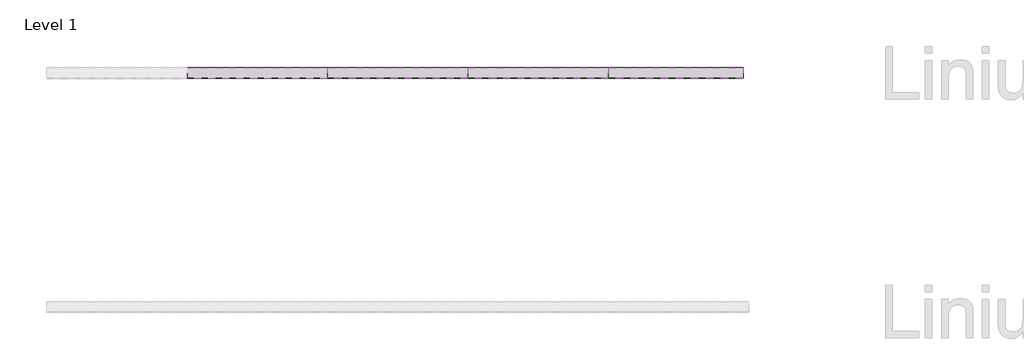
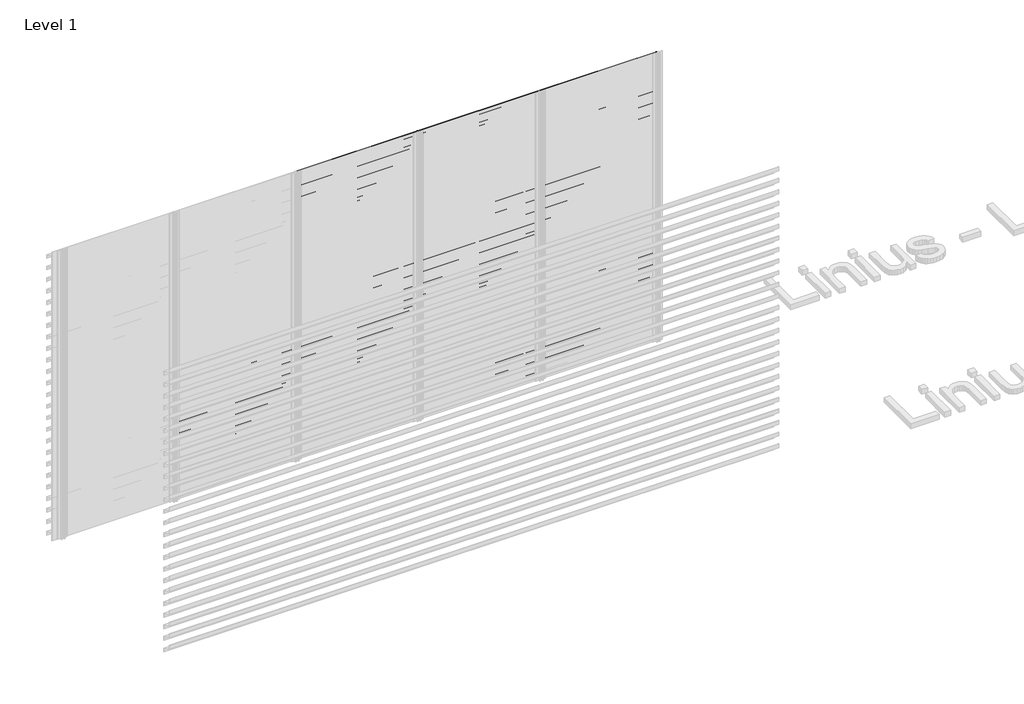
# One storey, part 6 of 46: 85 proxies.
"""IFC4 building model written with IfcOpenShell, lengths in millimetres."""

from ifc_helpers import new_model, si_unit, frame, origin, place, context, project, spatial, polyline, outline, extrude, element, save

model = new_model("IFC4")

# Units and contexts
model_context = context("Model", 3, world=origin())
ifc_project = project(units=[si_unit("LENGTHUNIT", "METRE", prefix="MILLI")], contexts=[model_context])

# Site, building, storey
site = spatial("IfcSite", under=ifc_project)
building = spatial("IfcBuilding", under=site)
storey = spatial("IfcBuildingStorey", under=building, Name="Level 1", Elevation=0.0)

# Proxies
placement = place(None, origin())
element("IfcBuildingElementProxy", 1, Name="Wall Sweeps", at=placement, inside=storey, context=model_context, shape_type="SweptSolid", body=[
    extrude(outline(polyline([(7077.0270068, 1240.0), (7077.0270068, 1200.0), (7075.0270068, 1201.349017), (7075.0270068, 1238.7258595), (6987.0270068, 1279.7609334), (6987.0270068, 1320.0), (6989.0270068, 1320.0), (6989.0270068, 1281.0350739), (7077.0270068, 1240.0)])), frame((1666.6208099, 0.0, 0.0), z_axis=(1.0, 0.0, 0.0), x_axis=(0.0, 1.0, 0.0)), (0.0, 0.0, 1.0), 1199.9999999),
])
element("IfcBuildingElementProxy", 2, Name="Wall Sweeps", at=placement, inside=storey, context=model_context, shape_type="SweptSolid", body=[
    extrude(outline(polyline([(7077.0270068, 1120.0), (7077.0270068, 1080.0), (7075.0270068, 1081.349017), (7075.0270068, 1118.7258595), (6987.0270068, 1159.7609334), (6987.0270068, 1200.0), (6989.0270068, 1200.0), (6989.0270068, 1161.0350739), (7077.0270068, 1120.0)])), frame((1666.6208099, 0.0, 0.0), z_axis=(1.0, 0.0, 0.0), x_axis=(0.0, 1.0, 0.0)), (0.0, 0.0, 1.0), 1199.9999999),
])
element("IfcBuildingElementProxy", 3, Name="Wall Sweeps", at=placement, inside=storey, context=model_context, shape_type="SweptSolid", body=[
    extrude(outline(polyline([(7077.0270068, 1000.0), (7077.0270068, 960.0), (7075.0270068, 961.349017), (7075.0270068, 998.7258595), (6987.0270068, 1039.7609334), (6987.0270068, 1080.0), (6989.0270068, 1080.0), (6989.0270068, 1041.0350739), (7077.0270068, 1000.0)])), frame((1666.6208099, 0.0, 0.0), z_axis=(1.0, 0.0, 0.0), x_axis=(0.0, 1.0, 0.0)), (0.0, 0.0, 1.0), 1199.9999999),
])
element("IfcBuildingElementProxy", 4, Name="Wall Sweeps", at=placement, inside=storey, context=model_context, shape_type="SweptSolid", body=[
    extrude(outline(polyline([(7077.0270068, 880.0), (7077.0270068, 840.0), (7075.0270068, 841.349017), (7075.0270068, 878.7258595), (6987.0270068, 919.7609334), (6987.0270068, 960.0), (6989.0270068, 960.0), (6989.0270068, 921.0350739), (7077.0270068, 880.0)])), frame((1666.6208099, 0.0, 0.0), z_axis=(1.0, 0.0, 0.0), x_axis=(0.0, 1.0, 0.0)), (0.0, 0.0, 1.0), 1199.9999999),
])
element("IfcBuildingElementProxy", 5, Name="Wall Sweeps", at=placement, inside=storey, context=model_context, shape_type="SweptSolid", body=[
    extrude(outline(polyline([(7077.0270068, 760.0), (7077.0270068, 720.0), (7075.0270068, 721.349017), (7075.0270068, 758.7258595), (6987.0270068, 799.7609334), (6987.0270068, 840.0), (6989.0270068, 840.0), (6989.0270068, 801.0350739), (7077.0270068, 760.0)])), frame((1666.6208099, 0.0, 0.0), z_axis=(1.0, 0.0, 0.0), x_axis=(0.0, 1.0, 0.0)), (0.0, 0.0, 1.0), 1199.9999999),
])
element("IfcBuildingElementProxy", 6, Name="Wall Sweeps", at=placement, inside=storey, context=model_context, shape_type="SweptSolid", body=[
    extrude(outline(polyline([(7077.0270068, 640.0), (7077.0270068, 600.0), (7075.0270068, 601.349017), (7075.0270068, 638.7258595), (6987.0270068, 679.7609334), (6987.0270068, 720.0), (6989.0270068, 720.0), (6989.0270068, 681.0350739), (7077.0270068, 640.0)])), frame((1666.6208099, 0.0, 0.0), z_axis=(1.0, 0.0, 0.0), x_axis=(0.0, 1.0, 0.0)), (0.0, 0.0, 1.0), 1199.9999999),
])
element("IfcBuildingElementProxy", 7, Name="Wall Sweeps", at=placement, inside=storey, context=model_context, shape_type="SweptSolid", body=[
    extrude(outline(polyline([(7077.0270068, 520.0), (7077.0270068, 480.0), (7075.0270068, 481.349017), (7075.0270068, 518.7258595), (6987.0270068, 559.7609334), (6987.0270068, 600.0), (6989.0270068, 600.0), (6989.0270068, 561.0350739), (7077.0270068, 520.0)])), frame((1666.6208099, 0.0, 0.0), z_axis=(1.0, 0.0, 0.0), x_axis=(0.0, 1.0, 0.0)), (0.0, 0.0, 1.0), 1199.9999999),
])
element("IfcBuildingElementProxy", 8, Name="Wall Sweeps", at=placement, inside=storey, context=model_context, shape_type="SweptSolid", body=[
    extrude(outline(polyline([(7077.0270068, 400.0), (7077.0270068, 360.0), (7075.0270068, 361.349017), (7075.0270068, 398.7258595), (6987.0270068, 439.7609334), (6987.0270068, 480.0), (6989.0270068, 480.0), (6989.0270068, 441.0350739), (7077.0270068, 400.0)])), frame((1666.6208099, 0.0, 0.0), z_axis=(1.0, 0.0, 0.0), x_axis=(0.0, 1.0, 0.0)), (0.0, 0.0, 1.0), 1199.9999999),
])
element("IfcBuildingElementProxy", 9, Name="Wall Sweeps", at=placement, inside=storey, context=model_context, shape_type="SweptSolid", body=[
    extrude(outline(polyline([(7077.0270068, 280.0), (7077.0270068, 240.0), (7075.0270068, 241.349017), (7075.0270068, 278.7258595), (6987.0270068, 319.7609334), (6987.0270068, 360.0), (6989.0270068, 360.0), (6989.0270068, 321.0350739), (7077.0270068, 280.0)])), frame((1666.6208099, 0.0, 0.0), z_axis=(1.0, 0.0, 0.0), x_axis=(0.0, 1.0, 0.0)), (0.0, 0.0, 1.0), 1199.9999999),
])
element("IfcBuildingElementProxy", 10, Name="Wall Sweeps", at=placement, inside=storey, context=model_context, shape_type="SweptSolid", body=[
    extrude(outline(polyline([(7077.0270068, 160.0), (7077.0270068, 120.0), (7075.0270068, 121.349017), (7075.0270068, 158.7258595), (6987.0270068, 199.7609334), (6987.0270068, 240.0), (6989.0270068, 240.0), (6989.0270068, 201.0350739), (7077.0270068, 160.0)])), frame((1666.6208099, 0.0, 0.0), z_axis=(1.0, 0.0, 0.0), x_axis=(0.0, 1.0, 0.0)), (0.0, 0.0, 1.0), 1199.9999999),
])
element("IfcBuildingElementProxy", 11, Name="Wall Sweeps", at=placement, inside=storey, context=model_context, shape_type="SweptSolid", body=[
    extrude(outline(polyline([(7077.0270068, 40.0), (7077.0270068, 0.0), (7075.0270068, 1.349017), (7075.0270068, 38.7258595), (6987.0270068, 79.7609334), (6987.0270068, 120.0), (6989.0270068, 120.0), (6989.0270068, 81.0350739), (7077.0270068, 40.0)])), frame((1666.6208099, 0.0, 0.0), z_axis=(1.0, 0.0, 0.0), x_axis=(0.0, 1.0, 0.0)), (0.0, 0.0, 1.0), 1199.9999999),
])
element("IfcBuildingElementProxy", 12, Name="Wall Sweeps", at=placement, inside=storey, context=model_context, shape_type="SweptSolid", body=[
    extrude(outline(polyline([(7077.0270068, 2920.0), (7077.0270068, 2880.0), (7075.0270068, 2881.349017), (7075.0270068, 2918.7258595), (6987.0270068, 2959.7609334), (6987.0270068, 3000.0), (6989.0270068, 3000.0), (6989.0270068, 2961.0350739), (7077.0270068, 2920.0)])), frame((5266.6208095, 0.0, 0.0), z_axis=(1.0, 0.0, 0.0), x_axis=(0.0, 1.0, 0.0)), (0.0, 0.0, 1.0), 1153.0000002),
])
element("IfcBuildingElementProxy", 13, Name="Wall Sweeps", at=placement, inside=storey, context=model_context, shape_type="SweptSolid", body=[
    extrude(outline(polyline([(7077.0270068, 2800.0), (7077.0270068, 2760.0), (7075.0270068, 2761.349017), (7075.0270068, 2798.7258595), (6987.0270068, 2839.7609334), (6987.0270068, 2880.0), (6989.0270068, 2880.0), (6989.0270068, 2841.0350739), (7077.0270068, 2800.0)])), frame((5266.6208095, 0.0, 0.0), z_axis=(1.0, 0.0, 0.0), x_axis=(0.0, 1.0, 0.0)), (0.0, 0.0, 1.0), 1153.0000002),
])
element("IfcBuildingElementProxy", 14, Name="Wall Sweeps", at=placement, inside=storey, context=model_context, shape_type="SweptSolid", body=[
    extrude(outline(polyline([(7077.0270068, 2680.0), (7077.0270068, 2640.0), (7075.0270068, 2641.349017), (7075.0270068, 2678.7258595), (6987.0270068, 2719.7609334), (6987.0270068, 2760.0), (6989.0270068, 2760.0), (6989.0270068, 2721.0350739), (7077.0270068, 2680.0)])), frame((5266.6208095, 0.0, 0.0), z_axis=(1.0, 0.0, 0.0), x_axis=(0.0, 1.0, 0.0)), (0.0, 0.0, 1.0), 1153.0000002),
])
element("IfcBuildingElementProxy", 15, Name="Wall Sweeps", at=placement, inside=storey, context=model_context, shape_type="SweptSolid", body=[
    extrude(outline(polyline([(7077.0270068, 2560.0), (7077.0270068, 2520.0), (7075.0270068, 2521.349017), (7075.0270068, 2558.7258595), (6987.0270068, 2599.7609334), (6987.0270068, 2640.0), (6989.0270068, 2640.0), (6989.0270068, 2601.0350739), (7077.0270068, 2560.0)])), frame((5266.6208095, 0.0, 0.0), z_axis=(1.0, 0.0, 0.0), x_axis=(0.0, 1.0, 0.0)), (0.0, 0.0, 1.0), 1153.0000002),
])
element("IfcBuildingElementProxy", 16, Name="Wall Sweeps", at=placement, inside=storey, context=model_context, shape_type="SweptSolid", body=[
    extrude(outline(polyline([(7077.0270068, 2440.0), (7077.0270068, 2400.0), (7075.0270068, 2401.349017), (7075.0270068, 2438.7258595), (6987.0270068, 2479.7609334), (6987.0270068, 2520.0), (6989.0270068, 2520.0), (6989.0270068, 2481.0350739), (7077.0270068, 2440.0)])), frame((5266.6208095, 0.0, 0.0), z_axis=(1.0, 0.0, 0.0), x_axis=(0.0, 1.0, 0.0)), (0.0, 0.0, 1.0), 1153.0000002),
])
element("IfcBuildingElementProxy", 17, Name="Wall Sweeps", at=placement, inside=storey, context=model_context, shape_type="SweptSolid", body=[
    extrude(outline(polyline([(7077.0270068, 2320.0), (7077.0270068, 2280.0), (7075.0270068, 2281.349017), (7075.0270068, 2318.7258595), (6987.0270068, 2359.7609334), (6987.0270068, 2400.0), (6989.0270068, 2400.0), (6989.0270068, 2361.0350739), (7077.0270068, 2320.0)])), frame((5266.6208095, 0.0, 0.0), z_axis=(1.0, 0.0, 0.0), x_axis=(0.0, 1.0, 0.0)), (0.0, 0.0, 1.0), 1153.0000002),
])
element("IfcBuildingElementProxy", 18, Name="Wall Sweeps", at=placement, inside=storey, context=model_context, shape_type="SweptSolid", body=[
    extrude(outline(polyline([(7077.0270068, 2200.0), (7077.0270068, 2160.0), (7075.0270068, 2161.349017), (7075.0270068, 2198.7258595), (6987.0270068, 2239.7609334), (6987.0270068, 2280.0), (6989.0270068, 2280.0), (6989.0270068, 2241.0350739), (7077.0270068, 2200.0)])), frame((5266.6208095, 0.0, 0.0), z_axis=(1.0, 0.0, 0.0), x_axis=(0.0, 1.0, 0.0)), (0.0, 0.0, 1.0), 1153.0000002),
])
element("IfcBuildingElementProxy", 19, Name="Wall Sweeps", at=placement, inside=storey, context=model_context, shape_type="SweptSolid", body=[
    extrude(outline(polyline([(7077.0270068, 2080.0), (7077.0270068, 2040.0), (7075.0270068, 2041.349017), (7075.0270068, 2078.7258595), (6987.0270068, 2119.7609334), (6987.0270068, 2160.0), (6989.0270068, 2160.0), (6989.0270068, 2121.0350739), (7077.0270068, 2080.0)])), frame((5266.6208095, 0.0, 0.0), z_axis=(1.0, 0.0, 0.0), x_axis=(0.0, 1.0, 0.0)), (0.0, 0.0, 1.0), 1153.0000002),
])
element("IfcBuildingElementProxy", 20, Name="Wall Sweeps", at=placement, inside=storey, context=model_context, shape_type="SweptSolid", body=[
    extrude(outline(polyline([(7077.0270068, 1960.0), (7077.0270068, 1920.0), (7075.0270068, 1921.349017), (7075.0270068, 1958.7258595), (6987.0270068, 1999.7609334), (6987.0270068, 2040.0), (6989.0270068, 2040.0), (6989.0270068, 2001.0350739), (7077.0270068, 1960.0)])), frame((5266.6208095, 0.0, 0.0), z_axis=(1.0, 0.0, 0.0), x_axis=(0.0, 1.0, 0.0)), (0.0, 0.0, 1.0), 1153.0000002),
])
element("IfcBuildingElementProxy", 21, Name="Wall Sweeps", at=placement, inside=storey, context=model_context, shape_type="SweptSolid", body=[
    extrude(outline(polyline([(7077.0270068, 1840.0), (7077.0270068, 1800.0), (7075.0270068, 1801.349017), (7075.0270068, 1838.7258595), (6987.0270068, 1879.7609334), (6987.0270068, 1920.0), (6989.0270068, 1920.0), (6989.0270068, 1881.0350739), (7077.0270068, 1840.0)])), frame((5266.6208095, 0.0, 0.0), z_axis=(1.0, 0.0, 0.0), x_axis=(0.0, 1.0, 0.0)), (0.0, 0.0, 1.0), 1153.0000002),
])
element("IfcBuildingElementProxy", 22, Name="Wall Sweeps", at=placement, inside=storey, context=model_context, shape_type="SweptSolid", body=[
    extrude(outline(polyline([(7077.0270068, 1720.0), (7077.0270068, 1680.0), (7075.0270068, 1681.349017), (7075.0270068, 1718.7258595), (6987.0270068, 1759.7609334), (6987.0270068, 1800.0), (6989.0270068, 1800.0), (6989.0270068, 1761.0350739), (7077.0270068, 1720.0)])), frame((5266.6208095, 0.0, 0.0), z_axis=(1.0, 0.0, 0.0), x_axis=(0.0, 1.0, 0.0)), (0.0, 0.0, 1.0), 1153.0000002),
])
element("IfcBuildingElementProxy", 23, Name="Wall Sweeps", at=placement, inside=storey, context=model_context, shape_type="SweptSolid", body=[
    extrude(outline(polyline([(7077.0270068, 1600.0), (7077.0270068, 1560.0), (7075.0270068, 1561.349017), (7075.0270068, 1598.7258595), (6987.0270068, 1639.7609334), (6987.0270068, 1680.0), (6989.0270068, 1680.0), (6989.0270068, 1641.0350739), (7077.0270068, 1600.0)])), frame((5266.6208095, 0.0, 0.0), z_axis=(1.0, 0.0, 0.0), x_axis=(0.0, 1.0, 0.0)), (0.0, 0.0, 1.0), 1153.0000002),
])
element("IfcBuildingElementProxy", 24, Name="Wall Sweeps", at=placement, inside=storey, context=model_context, shape_type="SweptSolid", body=[
    extrude(outline(polyline([(7077.0270068, 1480.0), (7077.0270068, 1440.0), (7075.0270068, 1441.349017), (7075.0270068, 1478.7258595), (6987.0270068, 1519.7609334), (6987.0270068, 1560.0), (6989.0270068, 1560.0), (6989.0270068, 1521.0350739), (7077.0270068, 1480.0)])), frame((5266.6208095, 0.0, 0.0), z_axis=(1.0, 0.0, 0.0), x_axis=(0.0, 1.0, 0.0)), (0.0, 0.0, 1.0), 1153.0000002),
])
element("IfcBuildingElementProxy", 25, Name="Wall Sweeps", at=placement, inside=storey, context=model_context, shape_type="SweptSolid", body=[
    extrude(outline(polyline([(7077.0270068, 1360.0), (7077.0270068, 1320.0), (7075.0270068, 1321.349017), (7075.0270068, 1358.7258595), (6987.0270068, 1399.7609334), (6987.0270068, 1440.0), (6989.0270068, 1440.0), (6989.0270068, 1401.0350739), (7077.0270068, 1360.0)])), frame((5266.6208095, 0.0, 0.0), z_axis=(1.0, 0.0, 0.0), x_axis=(0.0, 1.0, 0.0)), (0.0, 0.0, 1.0), 1153.0000002),
])
element("IfcBuildingElementProxy", 26, Name="Wall Sweeps", at=placement, inside=storey, context=model_context, shape_type="SweptSolid", body=[
    extrude(outline(polyline([(7077.0270068, 1240.0), (7077.0270068, 1200.0), (7075.0270068, 1201.349017), (7075.0270068, 1238.7258595), (6987.0270068, 1279.7609334), (6987.0270068, 1320.0), (6989.0270068, 1320.0), (6989.0270068, 1281.0350739), (7077.0270068, 1240.0)])), frame((5266.6208095, 0.0, 0.0), z_axis=(1.0, 0.0, 0.0), x_axis=(0.0, 1.0, 0.0)), (0.0, 0.0, 1.0), 1153.0000002),
])
element("IfcBuildingElementProxy", 27, Name="Wall Sweeps", at=placement, inside=storey, context=model_context, shape_type="SweptSolid", body=[
    extrude(outline(polyline([(7077.0270068, 1120.0), (7077.0270068, 1080.0), (7075.0270068, 1081.349017), (7075.0270068, 1118.7258595), (6987.0270068, 1159.7609334), (6987.0270068, 1200.0), (6989.0270068, 1200.0), (6989.0270068, 1161.0350739), (7077.0270068, 1120.0)])), frame((5266.6208095, 0.0, 0.0), z_axis=(1.0, 0.0, 0.0), x_axis=(0.0, 1.0, 0.0)), (0.0, 0.0, 1.0), 1153.0000002),
])
element("IfcBuildingElementProxy", 28, Name="Wall Sweeps", at=placement, inside=storey, context=model_context, shape_type="SweptSolid", body=[
    extrude(outline(polyline([(7077.0270068, 1000.0), (7077.0270068, 960.0), (7075.0270068, 961.349017), (7075.0270068, 998.7258595), (6987.0270068, 1039.7609334), (6987.0270068, 1080.0), (6989.0270068, 1080.0), (6989.0270068, 1041.0350739), (7077.0270068, 1000.0)])), frame((5266.6208095, 0.0, 0.0), z_axis=(1.0, 0.0, 0.0), x_axis=(0.0, 1.0, 0.0)), (0.0, 0.0, 1.0), 1153.0000002),
])
element("IfcBuildingElementProxy", 29, Name="Wall Sweeps", at=placement, inside=storey, context=model_context, shape_type="SweptSolid", body=[
    extrude(outline(polyline([(7077.0270068, 880.0), (7077.0270068, 840.0), (7075.0270068, 841.349017), (7075.0270068, 878.7258595), (6987.0270068, 919.7609334), (6987.0270068, 960.0), (6989.0270068, 960.0), (6989.0270068, 921.0350739), (7077.0270068, 880.0)])), frame((5266.6208095, 0.0, 0.0), z_axis=(1.0, 0.0, 0.0), x_axis=(0.0, 1.0, 0.0)), (0.0, 0.0, 1.0), 1153.0000002),
])
element("IfcBuildingElementProxy", 30, Name="Wall Sweeps", at=placement, inside=storey, context=model_context, shape_type="SweptSolid", body=[
    extrude(outline(polyline([(7077.0270068, 760.0), (7077.0270068, 720.0), (7075.0270068, 721.349017), (7075.0270068, 758.7258595), (6987.0270068, 799.7609334), (6987.0270068, 840.0), (6989.0270068, 840.0), (6989.0270068, 801.0350739), (7077.0270068, 760.0)])), frame((5266.6208095, 0.0, 0.0), z_axis=(1.0, 0.0, 0.0), x_axis=(0.0, 1.0, 0.0)), (0.0, 0.0, 1.0), 1153.0000002),
])
element("IfcBuildingElementProxy", 31, Name="Wall Sweeps", at=placement, inside=storey, context=model_context, shape_type="SweptSolid", body=[
    extrude(outline(polyline([(7077.0270068, 640.0), (7077.0270068, 600.0), (7075.0270068, 601.349017), (7075.0270068, 638.7258595), (6987.0270068, 679.7609334), (6987.0270068, 720.0), (6989.0270068, 720.0), (6989.0270068, 681.0350739), (7077.0270068, 640.0)])), frame((5266.6208095, 0.0, 0.0), z_axis=(1.0, 0.0, 0.0), x_axis=(0.0, 1.0, 0.0)), (0.0, 0.0, 1.0), 1153.0000002),
])
element("IfcBuildingElementProxy", 32, Name="Wall Sweeps", at=placement, inside=storey, context=model_context, shape_type="SweptSolid", body=[
    extrude(outline(polyline([(7077.0270068, 520.0), (7077.0270068, 480.0), (7075.0270068, 481.349017), (7075.0270068, 518.7258595), (6987.0270068, 559.7609334), (6987.0270068, 600.0), (6989.0270068, 600.0), (6989.0270068, 561.0350739), (7077.0270068, 520.0)])), frame((5266.6208095, 0.0, 0.0), z_axis=(1.0, 0.0, 0.0), x_axis=(0.0, 1.0, 0.0)), (0.0, 0.0, 1.0), 1153.0000002),
])
element("IfcBuildingElementProxy", 33, Name="Wall Sweeps", at=placement, inside=storey, context=model_context, shape_type="SweptSolid", body=[
    extrude(outline(polyline([(7077.0270068, 400.0), (7077.0270068, 360.0), (7075.0270068, 361.349017), (7075.0270068, 398.7258595), (6987.0270068, 439.7609334), (6987.0270068, 480.0), (6989.0270068, 480.0), (6989.0270068, 441.0350739), (7077.0270068, 400.0)])), frame((5266.6208095, 0.0, 0.0), z_axis=(1.0, 0.0, 0.0), x_axis=(0.0, 1.0, 0.0)), (0.0, 0.0, 1.0), 1153.0000002),
])
element("IfcBuildingElementProxy", 34, Name="Wall Sweeps", at=placement, inside=storey, context=model_context, shape_type="SweptSolid", body=[
    extrude(outline(polyline([(7077.0270068, 280.0), (7077.0270068, 240.0), (7075.0270068, 241.349017), (7075.0270068, 278.7258595), (6987.0270068, 319.7609334), (6987.0270068, 360.0), (6989.0270068, 360.0), (6989.0270068, 321.0350739), (7077.0270068, 280.0)])), frame((5266.6208095, 0.0, 0.0), z_axis=(1.0, 0.0, 0.0), x_axis=(0.0, 1.0, 0.0)), (0.0, 0.0, 1.0), 1153.0000002),
])
element("IfcBuildingElementProxy", 35, Name="Wall Sweeps", at=placement, inside=storey, context=model_context, shape_type="SweptSolid", body=[
    extrude(outline(polyline([(7077.0270068, 160.0), (7077.0270068, 120.0), (7075.0270068, 121.349017), (7075.0270068, 158.7258595), (6987.0270068, 199.7609334), (6987.0270068, 240.0), (6989.0270068, 240.0), (6989.0270068, 201.0350739), (7077.0270068, 160.0)])), frame((5266.6208095, 0.0, 0.0), z_axis=(1.0, 0.0, 0.0), x_axis=(0.0, 1.0, 0.0)), (0.0, 0.0, 1.0), 1153.0000002),
])
element("IfcBuildingElementProxy", 36, Name="Wall Sweeps", at=placement, inside=storey, context=model_context, shape_type="SweptSolid", body=[
    extrude(outline(polyline([(7077.0270068, 2920.0), (7077.0270068, 2880.0), (7075.0270068, 2881.349017), (7075.0270068, 2918.7258595), (6987.0270068, 2959.7609334), (6987.0270068, 3000.0), (6989.0270068, 3000.0), (6989.0270068, 2961.0350739), (7077.0270068, 2920.0)])), frame((2866.6208097, 0.0, 0.0), z_axis=(1.0, 0.0, 0.0), x_axis=(0.0, 1.0, 0.0)), (0.0, 0.0, 1.0), 1199.9999999),
])
element("IfcBuildingElementProxy", 37, Name="Wall Sweeps", at=placement, inside=storey, context=model_context, shape_type="SweptSolid", body=[
    extrude(outline(polyline([(7077.0270068, 2800.0), (7077.0270068, 2760.0), (7075.0270068, 2761.349017), (7075.0270068, 2798.7258595), (6987.0270068, 2839.7609334), (6987.0270068, 2880.0), (6989.0270068, 2880.0), (6989.0270068, 2841.0350739), (7077.0270068, 2800.0)])), frame((2866.6208097, 0.0, 0.0), z_axis=(1.0, 0.0, 0.0), x_axis=(0.0, 1.0, 0.0)), (0.0, 0.0, 1.0), 1199.9999999),
])
element("IfcBuildingElementProxy", 38, Name="Wall Sweeps", at=placement, inside=storey, context=model_context, shape_type="SweptSolid", body=[
    extrude(outline(polyline([(7077.0270068, 2680.0), (7077.0270068, 2640.0), (7075.0270068, 2641.349017), (7075.0270068, 2678.7258595), (6987.0270068, 2719.7609334), (6987.0270068, 2760.0), (6989.0270068, 2760.0), (6989.0270068, 2721.0350739), (7077.0270068, 2680.0)])), frame((2866.6208097, 0.0, 0.0), z_axis=(1.0, 0.0, 0.0), x_axis=(0.0, 1.0, 0.0)), (0.0, 0.0, 1.0), 1199.9999999),
])
element("IfcBuildingElementProxy", 39, Name="Wall Sweeps", at=placement, inside=storey, context=model_context, shape_type="SweptSolid", body=[
    extrude(outline(polyline([(7077.0270068, 2560.0), (7077.0270068, 2520.0), (7075.0270068, 2521.349017), (7075.0270068, 2558.7258595), (6987.0270068, 2599.7609334), (6987.0270068, 2640.0), (6989.0270068, 2640.0), (6989.0270068, 2601.0350739), (7077.0270068, 2560.0)])), frame((2866.6208097, 0.0, 0.0), z_axis=(1.0, 0.0, 0.0), x_axis=(0.0, 1.0, 0.0)), (0.0, 0.0, 1.0), 1199.9999999),
])
element("IfcBuildingElementProxy", 40, Name="Wall Sweeps", at=placement, inside=storey, context=model_context, shape_type="SweptSolid", body=[
    extrude(outline(polyline([(7077.0270068, 2440.0), (7077.0270068, 2400.0), (7075.0270068, 2401.349017), (7075.0270068, 2438.7258595), (6987.0270068, 2479.7609334), (6987.0270068, 2520.0), (6989.0270068, 2520.0), (6989.0270068, 2481.0350739), (7077.0270068, 2440.0)])), frame((2866.6208097, 0.0, 0.0), z_axis=(1.0, 0.0, 0.0), x_axis=(0.0, 1.0, 0.0)), (0.0, 0.0, 1.0), 1199.9999999),
])
element("IfcBuildingElementProxy", 41, Name="Wall Sweeps", at=placement, inside=storey, context=model_context, shape_type="SweptSolid", body=[
    extrude(outline(polyline([(7077.0270068, 2320.0), (7077.0270068, 2280.0), (7075.0270068, 2281.349017), (7075.0270068, 2318.7258595), (6987.0270068, 2359.7609334), (6987.0270068, 2400.0), (6989.0270068, 2400.0), (6989.0270068, 2361.0350739), (7077.0270068, 2320.0)])), frame((2866.6208097, 0.0, 0.0), z_axis=(1.0, 0.0, 0.0), x_axis=(0.0, 1.0, 0.0)), (0.0, 0.0, 1.0), 1199.9999999),
])
element("IfcBuildingElementProxy", 42, Name="Wall Sweeps", at=placement, inside=storey, context=model_context, shape_type="SweptSolid", body=[
    extrude(outline(polyline([(7077.0270068, 2200.0), (7077.0270068, 2160.0), (7075.0270068, 2161.349017), (7075.0270068, 2198.7258595), (6987.0270068, 2239.7609334), (6987.0270068, 2280.0), (6989.0270068, 2280.0), (6989.0270068, 2241.0350739), (7077.0270068, 2200.0)])), frame((2866.6208097, 0.0, 0.0), z_axis=(1.0, 0.0, 0.0), x_axis=(0.0, 1.0, 0.0)), (0.0, 0.0, 1.0), 1199.9999999),
])
element("IfcBuildingElementProxy", 43, Name="Wall Sweeps", at=placement, inside=storey, context=model_context, shape_type="SweptSolid", body=[
    extrude(outline(polyline([(7077.0270068, 2080.0), (7077.0270068, 2040.0), (7075.0270068, 2041.349017), (7075.0270068, 2078.7258595), (6987.0270068, 2119.7609334), (6987.0270068, 2160.0), (6989.0270068, 2160.0), (6989.0270068, 2121.0350739), (7077.0270068, 2080.0)])), frame((2866.6208097, 0.0, 0.0), z_axis=(1.0, 0.0, 0.0), x_axis=(0.0, 1.0, 0.0)), (0.0, 0.0, 1.0), 1199.9999999),
])
element("IfcBuildingElementProxy", 44, Name="Wall Sweeps", at=placement, inside=storey, context=model_context, shape_type="SweptSolid", body=[
    extrude(outline(polyline([(7077.0270068, 1960.0), (7077.0270068, 1920.0), (7075.0270068, 1921.349017), (7075.0270068, 1958.7258595), (6987.0270068, 1999.7609334), (6987.0270068, 2040.0), (6989.0270068, 2040.0), (6989.0270068, 2001.0350739), (7077.0270068, 1960.0)])), frame((2866.6208097, 0.0, 0.0), z_axis=(1.0, 0.0, 0.0), x_axis=(0.0, 1.0, 0.0)), (0.0, 0.0, 1.0), 1199.9999999),
])
element("IfcBuildingElementProxy", 45, Name="Wall Sweeps", at=placement, inside=storey, context=model_context, shape_type="SweptSolid", body=[
    extrude(outline(polyline([(7077.0270068, 1840.0), (7077.0270068, 1800.0), (7075.0270068, 1801.349017), (7075.0270068, 1838.7258595), (6987.0270068, 1879.7609334), (6987.0270068, 1920.0), (6989.0270068, 1920.0), (6989.0270068, 1881.0350739), (7077.0270068, 1840.0)])), frame((2866.6208097, 0.0, 0.0), z_axis=(1.0, 0.0, 0.0), x_axis=(0.0, 1.0, 0.0)), (0.0, 0.0, 1.0), 1199.9999999),
])
element("IfcBuildingElementProxy", 46, Name="Wall Sweeps", at=placement, inside=storey, context=model_context, shape_type="SweptSolid", body=[
    extrude(outline(polyline([(7077.0270068, 1720.0), (7077.0270068, 1680.0), (7075.0270068, 1681.349017), (7075.0270068, 1718.7258595), (6987.0270068, 1759.7609334), (6987.0270068, 1800.0), (6989.0270068, 1800.0), (6989.0270068, 1761.0350739), (7077.0270068, 1720.0)])), frame((2866.6208097, 0.0, 0.0), z_axis=(1.0, 0.0, 0.0), x_axis=(0.0, 1.0, 0.0)), (0.0, 0.0, 1.0), 1199.9999999),
])
element("IfcBuildingElementProxy", 47, Name="Wall Sweeps", at=placement, inside=storey, context=model_context, shape_type="SweptSolid", body=[
    extrude(outline(polyline([(7077.0270068, 1600.0), (7077.0270068, 1560.0), (7075.0270068, 1561.349017), (7075.0270068, 1598.7258595), (6987.0270068, 1639.7609334), (6987.0270068, 1680.0), (6989.0270068, 1680.0), (6989.0270068, 1641.0350739), (7077.0270068, 1600.0)])), frame((2866.6208097, 0.0, 0.0), z_axis=(1.0, 0.0, 0.0), x_axis=(0.0, 1.0, 0.0)), (0.0, 0.0, 1.0), 1199.9999999),
])
element("IfcBuildingElementProxy", 48, Name="Wall Sweeps", at=placement, inside=storey, context=model_context, shape_type="SweptSolid", body=[
    extrude(outline(polyline([(7077.0270068, 1480.0), (7077.0270068, 1440.0), (7075.0270068, 1441.349017), (7075.0270068, 1478.7258595), (6987.0270068, 1519.7609334), (6987.0270068, 1560.0), (6989.0270068, 1560.0), (6989.0270068, 1521.0350739), (7077.0270068, 1480.0)])), frame((2866.6208097, 0.0, 0.0), z_axis=(1.0, 0.0, 0.0), x_axis=(0.0, 1.0, 0.0)), (0.0, 0.0, 1.0), 1199.9999999),
])
element("IfcBuildingElementProxy", 49, Name="Wall Sweeps", at=placement, inside=storey, context=model_context, shape_type="SweptSolid", body=[
    extrude(outline(polyline([(7077.0270068, 1360.0), (7077.0270068, 1320.0), (7075.0270068, 1321.349017), (7075.0270068, 1358.7258595), (6987.0270068, 1399.7609334), (6987.0270068, 1440.0), (6989.0270068, 1440.0), (6989.0270068, 1401.0350739), (7077.0270068, 1360.0)])), frame((2866.6208097, 0.0, 0.0), z_axis=(1.0, 0.0, 0.0), x_axis=(0.0, 1.0, 0.0)), (0.0, 0.0, 1.0), 1199.9999999),
])
element("IfcBuildingElementProxy", 50, Name="Wall Sweeps", at=placement, inside=storey, context=model_context, shape_type="SweptSolid", body=[
    extrude(outline(polyline([(7077.0270068, 1240.0), (7077.0270068, 1200.0), (7075.0270068, 1201.349017), (7075.0270068, 1238.7258595), (6987.0270068, 1279.7609334), (6987.0270068, 1320.0), (6989.0270068, 1320.0), (6989.0270068, 1281.0350739), (7077.0270068, 1240.0)])), frame((2866.6208097, 0.0, 0.0), z_axis=(1.0, 0.0, 0.0), x_axis=(0.0, 1.0, 0.0)), (0.0, 0.0, 1.0), 1199.9999999),
])
element("IfcBuildingElementProxy", 51, Name="Wall Sweeps", at=placement, inside=storey, context=model_context, shape_type="SweptSolid", body=[
    extrude(outline(polyline([(7077.0270068, 1120.0), (7077.0270068, 1080.0), (7075.0270068, 1081.349017), (7075.0270068, 1118.7258595), (6987.0270068, 1159.7609334), (6987.0270068, 1200.0), (6989.0270068, 1200.0), (6989.0270068, 1161.0350739), (7077.0270068, 1120.0)])), frame((2866.6208097, 0.0, 0.0), z_axis=(1.0, 0.0, 0.0), x_axis=(0.0, 1.0, 0.0)), (0.0, 0.0, 1.0), 1199.9999999),
])
element("IfcBuildingElementProxy", 52, Name="Wall Sweeps", at=placement, inside=storey, context=model_context, shape_type="SweptSolid", body=[
    extrude(outline(polyline([(7077.0270068, 1000.0), (7077.0270068, 960.0), (7075.0270068, 961.349017), (7075.0270068, 998.7258595), (6987.0270068, 1039.7609334), (6987.0270068, 1080.0), (6989.0270068, 1080.0), (6989.0270068, 1041.0350739), (7077.0270068, 1000.0)])), frame((2866.6208097, 0.0, 0.0), z_axis=(1.0, 0.0, 0.0), x_axis=(0.0, 1.0, 0.0)), (0.0, 0.0, 1.0), 1199.9999999),
])
element("IfcBuildingElementProxy", 53, Name="Wall Sweeps", at=placement, inside=storey, context=model_context, shape_type="SweptSolid", body=[
    extrude(outline(polyline([(7077.0270068, 880.0), (7077.0270068, 840.0), (7075.0270068, 841.349017), (7075.0270068, 878.7258595), (6987.0270068, 919.7609334), (6987.0270068, 960.0), (6989.0270068, 960.0), (6989.0270068, 921.0350739), (7077.0270068, 880.0)])), frame((2866.6208097, 0.0, 0.0), z_axis=(1.0, 0.0, 0.0), x_axis=(0.0, 1.0, 0.0)), (0.0, 0.0, 1.0), 1199.9999999),
])
element("IfcBuildingElementProxy", 54, Name="Wall Sweeps", at=placement, inside=storey, context=model_context, shape_type="SweptSolid", body=[
    extrude(outline(polyline([(7077.0270068, 760.0), (7077.0270068, 720.0), (7075.0270068, 721.349017), (7075.0270068, 758.7258595), (6987.0270068, 799.7609334), (6987.0270068, 840.0), (6989.0270068, 840.0), (6989.0270068, 801.0350739), (7077.0270068, 760.0)])), frame((2866.6208097, 0.0, 0.0), z_axis=(1.0, 0.0, 0.0), x_axis=(0.0, 1.0, 0.0)), (0.0, 0.0, 1.0), 1199.9999999),
])
element("IfcBuildingElementProxy", 55, Name="Wall Sweeps", at=placement, inside=storey, context=model_context, shape_type="SweptSolid", body=[
    extrude(outline(polyline([(7077.0270068, 640.0), (7077.0270068, 600.0), (7075.0270068, 601.349017), (7075.0270068, 638.7258595), (6987.0270068, 679.7609334), (6987.0270068, 720.0), (6989.0270068, 720.0), (6989.0270068, 681.0350739), (7077.0270068, 640.0)])), frame((2866.6208097, 0.0, 0.0), z_axis=(1.0, 0.0, 0.0), x_axis=(0.0, 1.0, 0.0)), (0.0, 0.0, 1.0), 1199.9999999),
])
element("IfcBuildingElementProxy", 56, Name="Wall Sweeps", at=placement, inside=storey, context=model_context, shape_type="SweptSolid", body=[
    extrude(outline(polyline([(7077.0270068, 520.0), (7077.0270068, 480.0), (7075.0270068, 481.349017), (7075.0270068, 518.7258595), (6987.0270068, 559.7609334), (6987.0270068, 600.0), (6989.0270068, 600.0), (6989.0270068, 561.0350739), (7077.0270068, 520.0)])), frame((2866.6208097, 0.0, 0.0), z_axis=(1.0, 0.0, 0.0), x_axis=(0.0, 1.0, 0.0)), (0.0, 0.0, 1.0), 1199.9999999),
])
element("IfcBuildingElementProxy", 57, Name="Wall Sweeps", at=placement, inside=storey, context=model_context, shape_type="SweptSolid", body=[
    extrude(outline(polyline([(7077.0270068, 400.0), (7077.0270068, 360.0), (7075.0270068, 361.349017), (7075.0270068, 398.7258595), (6987.0270068, 439.7609334), (6987.0270068, 480.0), (6989.0270068, 480.0), (6989.0270068, 441.0350739), (7077.0270068, 400.0)])), frame((2866.6208097, 0.0, 0.0), z_axis=(1.0, 0.0, 0.0), x_axis=(0.0, 1.0, 0.0)), (0.0, 0.0, 1.0), 1199.9999999),
])
element("IfcBuildingElementProxy", 58, Name="Wall Sweeps", at=placement, inside=storey, context=model_context, shape_type="SweptSolid", body=[
    extrude(outline(polyline([(7077.0270068, 280.0), (7077.0270068, 240.0), (7075.0270068, 241.349017), (7075.0270068, 278.7258595), (6987.0270068, 319.7609334), (6987.0270068, 360.0), (6989.0270068, 360.0), (6989.0270068, 321.0350739), (7077.0270068, 280.0)])), frame((2866.6208097, 0.0, 0.0), z_axis=(1.0, 0.0, 0.0), x_axis=(0.0, 1.0, 0.0)), (0.0, 0.0, 1.0), 1199.9999999),
])
element("IfcBuildingElementProxy", 59, Name="Wall Sweeps", at=placement, inside=storey, context=model_context, shape_type="SweptSolid", body=[
    extrude(outline(polyline([(7077.0270068, 160.0), (7077.0270068, 120.0), (7075.0270068, 121.349017), (7075.0270068, 158.7258595), (6987.0270068, 199.7609334), (6987.0270068, 240.0), (6989.0270068, 240.0), (6989.0270068, 201.0350739), (7077.0270068, 160.0)])), frame((2866.6208097, 0.0, 0.0), z_axis=(1.0, 0.0, 0.0), x_axis=(0.0, 1.0, 0.0)), (0.0, 0.0, 1.0), 1199.9999999),
])
element("IfcBuildingElementProxy", 60, Name="Wall Sweeps", at=placement, inside=storey, context=model_context, shape_type="SweptSolid", body=[
    extrude(outline(polyline([(7077.0270068, 40.0), (7077.0270068, 0.0), (7075.0270068, 1.349017), (7075.0270068, 38.7258595), (6987.0270068, 79.7609334), (6987.0270068, 120.0), (6989.0270068, 120.0), (6989.0270068, 81.0350739), (7077.0270068, 40.0)])), frame((2866.6208097, 0.0, 0.0), z_axis=(1.0, 0.0, 0.0), x_axis=(0.0, 1.0, 0.0)), (0.0, 0.0, 1.0), 1199.9999999),
])
element("IfcBuildingElementProxy", 61, Name="Wall Sweeps", at=placement, inside=storey, context=model_context, shape_type="SweptSolid", body=[
    extrude(outline(polyline([(7077.0270068, 2920.0), (7077.0270068, 2880.0), (7075.0270068, 2881.349017), (7075.0270068, 2918.7258595), (6987.0270068, 2959.7609334), (6987.0270068, 3000.0), (6989.0270068, 3000.0), (6989.0270068, 2961.0350739), (7077.0270068, 2920.0)])), frame((4066.6208096, 0.0, 0.0), z_axis=(1.0, 0.0, 0.0), x_axis=(0.0, 1.0, 0.0)), (0.0, 0.0, 1.0), 1199.9999999),
])
element("IfcBuildingElementProxy", 62, Name="Wall Sweeps", at=placement, inside=storey, context=model_context, shape_type="SweptSolid", body=[
    extrude(outline(polyline([(7077.0270068, 2800.0), (7077.0270068, 2760.0), (7075.0270068, 2761.349017), (7075.0270068, 2798.7258595), (6987.0270068, 2839.7609334), (6987.0270068, 2880.0), (6989.0270068, 2880.0), (6989.0270068, 2841.0350739), (7077.0270068, 2800.0)])), frame((4066.6208096, 0.0, 0.0), z_axis=(1.0, 0.0, 0.0), x_axis=(0.0, 1.0, 0.0)), (0.0, 0.0, 1.0), 1199.9999999),
])
element("IfcBuildingElementProxy", 63, Name="Wall Sweeps", at=placement, inside=storey, context=model_context, shape_type="SweptSolid", body=[
    extrude(outline(polyline([(7077.0270068, 2680.0), (7077.0270068, 2640.0), (7075.0270068, 2641.349017), (7075.0270068, 2678.7258595), (6987.0270068, 2719.7609334), (6987.0270068, 2760.0), (6989.0270068, 2760.0), (6989.0270068, 2721.0350739), (7077.0270068, 2680.0)])), frame((4066.6208096, 0.0, 0.0), z_axis=(1.0, 0.0, 0.0), x_axis=(0.0, 1.0, 0.0)), (0.0, 0.0, 1.0), 1199.9999999),
])
element("IfcBuildingElementProxy", 64, Name="Wall Sweeps", at=placement, inside=storey, context=model_context, shape_type="SweptSolid", body=[
    extrude(outline(polyline([(7077.0270068, 2560.0), (7077.0270068, 2520.0), (7075.0270068, 2521.349017), (7075.0270068, 2558.7258595), (6987.0270068, 2599.7609334), (6987.0270068, 2640.0), (6989.0270068, 2640.0), (6989.0270068, 2601.0350739), (7077.0270068, 2560.0)])), frame((4066.6208096, 0.0, 0.0), z_axis=(1.0, 0.0, 0.0), x_axis=(0.0, 1.0, 0.0)), (0.0, 0.0, 1.0), 1199.9999999),
])
element("IfcBuildingElementProxy", 65, Name="Wall Sweeps", at=placement, inside=storey, context=model_context, shape_type="SweptSolid", body=[
    extrude(outline(polyline([(7077.0270068, 2440.0), (7077.0270068, 2400.0), (7075.0270068, 2401.349017), (7075.0270068, 2438.7258595), (6987.0270068, 2479.7609334), (6987.0270068, 2520.0), (6989.0270068, 2520.0), (6989.0270068, 2481.0350739), (7077.0270068, 2440.0)])), frame((4066.6208096, 0.0, 0.0), z_axis=(1.0, 0.0, 0.0), x_axis=(0.0, 1.0, 0.0)), (0.0, 0.0, 1.0), 1199.9999999),
])
element("IfcBuildingElementProxy", 66, Name="Wall Sweeps", at=placement, inside=storey, context=model_context, shape_type="SweptSolid", body=[
    extrude(outline(polyline([(7077.0270068, 2320.0), (7077.0270068, 2280.0), (7075.0270068, 2281.349017), (7075.0270068, 2318.7258595), (6987.0270068, 2359.7609334), (6987.0270068, 2400.0), (6989.0270068, 2400.0), (6989.0270068, 2361.0350739), (7077.0270068, 2320.0)])), frame((4066.6208096, 0.0, 0.0), z_axis=(1.0, 0.0, 0.0), x_axis=(0.0, 1.0, 0.0)), (0.0, 0.0, 1.0), 1199.9999999),
])
element("IfcBuildingElementProxy", 67, Name="Wall Sweeps", at=placement, inside=storey, context=model_context, shape_type="SweptSolid", body=[
    extrude(outline(polyline([(7077.0270068, 2200.0), (7077.0270068, 2160.0), (7075.0270068, 2161.349017), (7075.0270068, 2198.7258595), (6987.0270068, 2239.7609334), (6987.0270068, 2280.0), (6989.0270068, 2280.0), (6989.0270068, 2241.0350739), (7077.0270068, 2200.0)])), frame((4066.6208096, 0.0, 0.0), z_axis=(1.0, 0.0, 0.0), x_axis=(0.0, 1.0, 0.0)), (0.0, 0.0, 1.0), 1199.9999999),
])
element("IfcBuildingElementProxy", 68, Name="Wall Sweeps", at=placement, inside=storey, context=model_context, shape_type="SweptSolid", body=[
    extrude(outline(polyline([(7077.0270068, 2080.0), (7077.0270068, 2040.0), (7075.0270068, 2041.349017), (7075.0270068, 2078.7258595), (6987.0270068, 2119.7609334), (6987.0270068, 2160.0), (6989.0270068, 2160.0), (6989.0270068, 2121.0350739), (7077.0270068, 2080.0)])), frame((4066.6208096, 0.0, 0.0), z_axis=(1.0, 0.0, 0.0), x_axis=(0.0, 1.0, 0.0)), (0.0, 0.0, 1.0), 1199.9999999),
])
element("IfcBuildingElementProxy", 69, Name="Wall Sweeps", at=placement, inside=storey, context=model_context, shape_type="SweptSolid", body=[
    extrude(outline(polyline([(7077.0270068, 1960.0), (7077.0270068, 1920.0), (7075.0270068, 1921.349017), (7075.0270068, 1958.7258595), (6987.0270068, 1999.7609334), (6987.0270068, 2040.0), (6989.0270068, 2040.0), (6989.0270068, 2001.0350739), (7077.0270068, 1960.0)])), frame((4066.6208096, 0.0, 0.0), z_axis=(1.0, 0.0, 0.0), x_axis=(0.0, 1.0, 0.0)), (0.0, 0.0, 1.0), 1199.9999999),
])
element("IfcBuildingElementProxy", 70, Name="Wall Sweeps", at=placement, inside=storey, context=model_context, shape_type="SweptSolid", body=[
    extrude(outline(polyline([(7077.0270068, 1840.0), (7077.0270068, 1800.0), (7075.0270068, 1801.349017), (7075.0270068, 1838.7258595), (6987.0270068, 1879.7609334), (6987.0270068, 1920.0), (6989.0270068, 1920.0), (6989.0270068, 1881.0350739), (7077.0270068, 1840.0)])), frame((4066.6208096, 0.0, 0.0), z_axis=(1.0, 0.0, 0.0), x_axis=(0.0, 1.0, 0.0)), (0.0, 0.0, 1.0), 1199.9999999),
])
element("IfcBuildingElementProxy", 71, Name="Wall Sweeps", at=placement, inside=storey, context=model_context, shape_type="SweptSolid", body=[
    extrude(outline(polyline([(7077.0270068, 1720.0), (7077.0270068, 1680.0), (7075.0270068, 1681.349017), (7075.0270068, 1718.7258595), (6987.0270068, 1759.7609334), (6987.0270068, 1800.0), (6989.0270068, 1800.0), (6989.0270068, 1761.0350739), (7077.0270068, 1720.0)])), frame((4066.6208096, 0.0, 0.0), z_axis=(1.0, 0.0, 0.0), x_axis=(0.0, 1.0, 0.0)), (0.0, 0.0, 1.0), 1199.9999999),
])
element("IfcBuildingElementProxy", 72, Name="Wall Sweeps", at=placement, inside=storey, context=model_context, shape_type="SweptSolid", body=[
    extrude(outline(polyline([(7077.0270068, 1600.0), (7077.0270068, 1560.0), (7075.0270068, 1561.349017), (7075.0270068, 1598.7258595), (6987.0270068, 1639.7609334), (6987.0270068, 1680.0), (6989.0270068, 1680.0), (6989.0270068, 1641.0350739), (7077.0270068, 1600.0)])), frame((4066.6208096, 0.0, 0.0), z_axis=(1.0, 0.0, 0.0), x_axis=(0.0, 1.0, 0.0)), (0.0, 0.0, 1.0), 1199.9999999),
])
element("IfcBuildingElementProxy", 73, Name="Wall Sweeps", at=placement, inside=storey, context=model_context, shape_type="SweptSolid", body=[
    extrude(outline(polyline([(7077.0270068, 1480.0), (7077.0270068, 1440.0), (7075.0270068, 1441.349017), (7075.0270068, 1478.7258595), (6987.0270068, 1519.7609334), (6987.0270068, 1560.0), (6989.0270068, 1560.0), (6989.0270068, 1521.0350739), (7077.0270068, 1480.0)])), frame((4066.6208096, 0.0, 0.0), z_axis=(1.0, 0.0, 0.0), x_axis=(0.0, 1.0, 0.0)), (0.0, 0.0, 1.0), 1199.9999999),
])
element("IfcBuildingElementProxy", 74, Name="Wall Sweeps", at=placement, inside=storey, context=model_context, shape_type="SweptSolid", body=[
    extrude(outline(polyline([(7077.0270068, 1360.0), (7077.0270068, 1320.0), (7075.0270068, 1321.349017), (7075.0270068, 1358.7258595), (6987.0270068, 1399.7609334), (6987.0270068, 1440.0), (6989.0270068, 1440.0), (6989.0270068, 1401.0350739), (7077.0270068, 1360.0)])), frame((4066.6208096, 0.0, 0.0), z_axis=(1.0, 0.0, 0.0), x_axis=(0.0, 1.0, 0.0)), (0.0, 0.0, 1.0), 1199.9999999),
])
element("IfcBuildingElementProxy", 75, Name="Wall Sweeps", at=placement, inside=storey, context=model_context, shape_type="SweptSolid", body=[
    extrude(outline(polyline([(7077.0270068, 1240.0), (7077.0270068, 1200.0), (7075.0270068, 1201.349017), (7075.0270068, 1238.7258595), (6987.0270068, 1279.7609334), (6987.0270068, 1320.0), (6989.0270068, 1320.0), (6989.0270068, 1281.0350739), (7077.0270068, 1240.0)])), frame((4066.6208096, 0.0, 0.0), z_axis=(1.0, 0.0, 0.0), x_axis=(0.0, 1.0, 0.0)), (0.0, 0.0, 1.0), 1199.9999999),
])
element("IfcBuildingElementProxy", 76, Name="Wall Sweeps", at=placement, inside=storey, context=model_context, shape_type="SweptSolid", body=[
    extrude(outline(polyline([(7077.0270068, 1120.0), (7077.0270068, 1080.0), (7075.0270068, 1081.349017), (7075.0270068, 1118.7258595), (6987.0270068, 1159.7609334), (6987.0270068, 1200.0), (6989.0270068, 1200.0), (6989.0270068, 1161.0350739), (7077.0270068, 1120.0)])), frame((4066.6208096, 0.0, 0.0), z_axis=(1.0, 0.0, 0.0), x_axis=(0.0, 1.0, 0.0)), (0.0, 0.0, 1.0), 1199.9999999),
])
element("IfcBuildingElementProxy", 77, Name="Wall Sweeps", at=placement, inside=storey, context=model_context, shape_type="SweptSolid", body=[
    extrude(outline(polyline([(7077.0270068, 1000.0), (7077.0270068, 960.0), (7075.0270068, 961.349017), (7075.0270068, 998.7258595), (6987.0270068, 1039.7609334), (6987.0270068, 1080.0), (6989.0270068, 1080.0), (6989.0270068, 1041.0350739), (7077.0270068, 1000.0)])), frame((4066.6208096, 0.0, 0.0), z_axis=(1.0, 0.0, 0.0), x_axis=(0.0, 1.0, 0.0)), (0.0, 0.0, 1.0), 1199.9999999),
])
element("IfcBuildingElementProxy", 78, Name="Wall Sweeps", at=placement, inside=storey, context=model_context, shape_type="SweptSolid", body=[
    extrude(outline(polyline([(7077.0270068, 880.0), (7077.0270068, 840.0), (7075.0270068, 841.349017), (7075.0270068, 878.7258595), (6987.0270068, 919.7609334), (6987.0270068, 960.0), (6989.0270068, 960.0), (6989.0270068, 921.0350739), (7077.0270068, 880.0)])), frame((4066.6208096, 0.0, 0.0), z_axis=(1.0, 0.0, 0.0), x_axis=(0.0, 1.0, 0.0)), (0.0, 0.0, 1.0), 1199.9999999),
])
element("IfcBuildingElementProxy", 79, Name="Wall Sweeps", at=placement, inside=storey, context=model_context, shape_type="SweptSolid", body=[
    extrude(outline(polyline([(7077.0270068, 760.0), (7077.0270068, 720.0), (7075.0270068, 721.349017), (7075.0270068, 758.7258595), (6987.0270068, 799.7609334), (6987.0270068, 840.0), (6989.0270068, 840.0), (6989.0270068, 801.0350739), (7077.0270068, 760.0)])), frame((4066.6208096, 0.0, 0.0), z_axis=(1.0, 0.0, 0.0), x_axis=(0.0, 1.0, 0.0)), (0.0, 0.0, 1.0), 1199.9999999),
])
element("IfcBuildingElementProxy", 80, Name="Wall Sweeps", at=placement, inside=storey, context=model_context, shape_type="SweptSolid", body=[
    extrude(outline(polyline([(7077.0270068, 640.0), (7077.0270068, 600.0), (7075.0270068, 601.349017), (7075.0270068, 638.7258595), (6987.0270068, 679.7609334), (6987.0270068, 720.0), (6989.0270068, 720.0), (6989.0270068, 681.0350739), (7077.0270068, 640.0)])), frame((4066.6208096, 0.0, 0.0), z_axis=(1.0, 0.0, 0.0), x_axis=(0.0, 1.0, 0.0)), (0.0, 0.0, 1.0), 1199.9999999),
])
element("IfcBuildingElementProxy", 81, Name="Wall Sweeps", at=placement, inside=storey, context=model_context, shape_type="SweptSolid", body=[
    extrude(outline(polyline([(7077.0270068, 520.0), (7077.0270068, 480.0), (7075.0270068, 481.349017), (7075.0270068, 518.7258595), (6987.0270068, 559.7609334), (6987.0270068, 600.0), (6989.0270068, 600.0), (6989.0270068, 561.0350739), (7077.0270068, 520.0)])), frame((4066.6208096, 0.0, 0.0), z_axis=(1.0, 0.0, 0.0), x_axis=(0.0, 1.0, 0.0)), (0.0, 0.0, 1.0), 1199.9999999),
])
element("IfcBuildingElementProxy", 82, Name="Wall Sweeps", at=placement, inside=storey, context=model_context, shape_type="SweptSolid", body=[
    extrude(outline(polyline([(7077.0270068, 400.0), (7077.0270068, 360.0), (7075.0270068, 361.349017), (7075.0270068, 398.7258595), (6987.0270068, 439.7609334), (6987.0270068, 480.0), (6989.0270068, 480.0), (6989.0270068, 441.0350739), (7077.0270068, 400.0)])), frame((4066.6208096, 0.0, 0.0), z_axis=(1.0, 0.0, 0.0), x_axis=(0.0, 1.0, 0.0)), (0.0, 0.0, 1.0), 1199.9999999),
])
element("IfcBuildingElementProxy", 83, Name="Wall Sweeps", at=placement, inside=storey, context=model_context, shape_type="SweptSolid", body=[
    extrude(outline(polyline([(7077.0270068, 280.0), (7077.0270068, 240.0), (7075.0270068, 241.349017), (7075.0270068, 278.7258595), (6987.0270068, 319.7609334), (6987.0270068, 360.0), (6989.0270068, 360.0), (6989.0270068, 321.0350739), (7077.0270068, 280.0)])), frame((4066.6208096, 0.0, 0.0), z_axis=(1.0, 0.0, 0.0), x_axis=(0.0, 1.0, 0.0)), (0.0, 0.0, 1.0), 1199.9999999),
])
element("IfcBuildingElementProxy", 84, Name="Wall Sweeps", at=placement, inside=storey, context=model_context, shape_type="SweptSolid", body=[
    extrude(outline(polyline([(7077.0270068, 160.0), (7077.0270068, 120.0), (7075.0270068, 121.349017), (7075.0270068, 158.7258595), (6987.0270068, 199.7609334), (6987.0270068, 240.0), (6989.0270068, 240.0), (6989.0270068, 201.0350739), (7077.0270068, 160.0)])), frame((4066.6208096, 0.0, 0.0), z_axis=(1.0, 0.0, 0.0), x_axis=(0.0, 1.0, 0.0)), (0.0, 0.0, 1.0), 1199.9999999),
])
element("IfcBuildingElementProxy", 85, Name="Wall Sweeps", at=placement, inside=storey, context=model_context, shape_type="SweptSolid", body=[
    extrude(outline(polyline([(7077.0270068, 40.0), (7077.0270068, 0.0), (7075.0270068, 1.349017), (7075.0270068, 38.7258595), (6987.0270068, 79.7609334), (6987.0270068, 120.0), (6989.0270068, 120.0), (6989.0270068, 81.0350739), (7077.0270068, 40.0)])), frame((4066.6208096, 0.0, 0.0), z_axis=(1.0, 0.0, 0.0), x_axis=(0.0, 1.0, 0.0)), (0.0, 0.0, 1.0), 1199.9999999),
])

save(model, "model.ifc")
